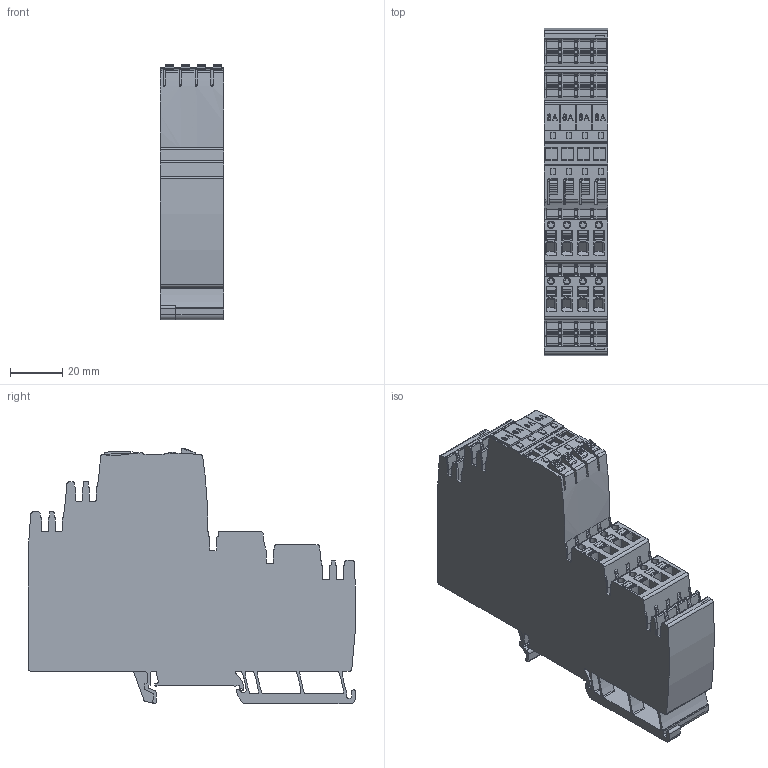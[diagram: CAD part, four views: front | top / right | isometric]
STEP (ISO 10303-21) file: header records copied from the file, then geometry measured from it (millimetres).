
FILE_DESCRIPTION(('CATIA V5R24 STEP','CAx-IF Rec.Pracs.--- Model Styling and Organization---1.2---2011-12-15'),'2;1');
FILE_NAME('\\SRVDE107\Germany\WMC\1_WMC_Input\Step_BU_PA\2080920000.stp','2017-09-05T09:30:58+00:00',('Weidmueller Interface'),('WI'),'CATIA Version 5-6 Release 2014 SP4','CATIA V5 STEP AP214','none');
FILE_SCHEMA(('AUTOMOTIVE_DESIGN { 1 0 10303 214 1 1 1 1 }'));
Length unit declared in the file: millimetre
Products named in the file (1): 2080920000
Bounding box: 24.3 x 125.07 x 97.53 mm (x, y, z)
Volume: 190069.5 mm3; surface area: 45743.2 mm2
Topology: 32 solids, 32 shells, 2849 faces, 8464 edges, 5764 vertices
Faces by surface type: plane 1697, cylinder 963, extrusion 181, torus 8
Entity records: 100820 total; most frequent: CARTESIAN_POINT 24635, ORIENTED_EDGE 16928, DIRECTION 12218, EDGE_CURVE 8464, VECTOR 6000, LINE 5819, VERTEX_POINT 5764, AXIS2_PLACEMENT_3D 4066
